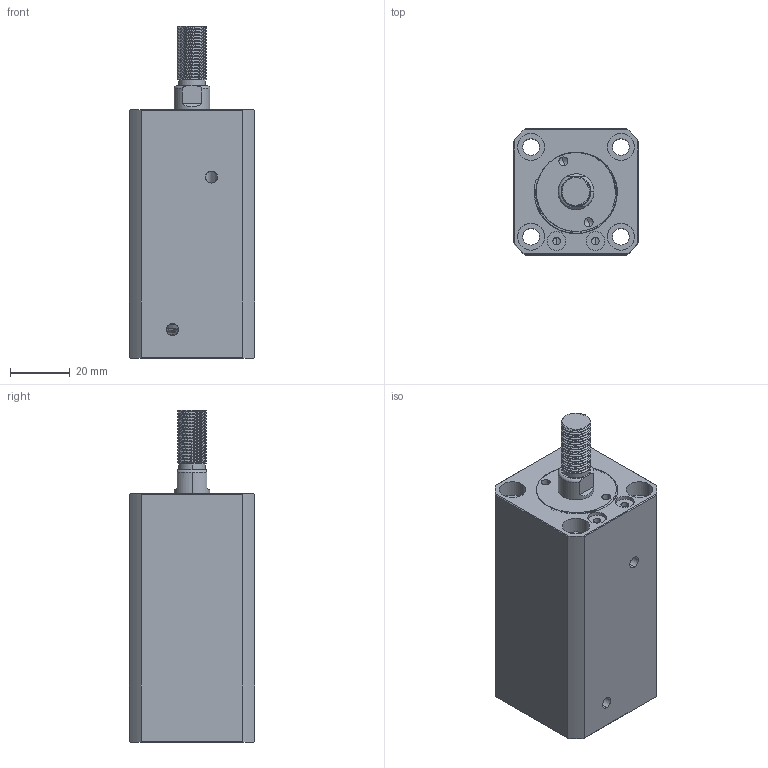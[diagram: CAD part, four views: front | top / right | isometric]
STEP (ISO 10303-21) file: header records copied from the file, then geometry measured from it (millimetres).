
FILE_DESCRIPTION (( 'STEP AP214' ), '1' );
FILE_NAME ('chtb-sdma20x40w_asm.STEP', '2018-05-18T04:17:28', ( 'Windows' ), ( 'Microsoft' ), 'SwSTEP 2.0', 'SolidWorks 2015', '' );
FILE_SCHEMA (( 'AUTOMOTIVE_DESIGN' ));
Length unit declared in the file: millimetre
Products named in the file (4): QG_3; CHTB-SDMA20X40WHSG; CHTB-SDMA20X40NBT; chtb-sdma20x40w_asm
Assembly tree (3 placements, depth 2):
  chtb-sdma20x40w_asm
    CHTB-SDMA20X40NBT
    CHTB-SDMA20X40WHSG
    QG_3
Bounding box: 42 x 42 x 111 mm (x, y, z)
Volume: 126159.7 mm3; surface area: 38659.8 mm2
Topology: 3 solids, 3 shells, 247 faces, 671 edges, 446 vertices
Faces by surface type: cylinder 144, plane 48, torus 25, bspline 23, cone 7
Entity records: 14895 total; most frequent: CARTESIAN_POINT 9018, ORIENTED_EDGE 1334, DIRECTION 1075, EDGE_CURVE 667, VERTEX_POINT 446, AXIS2_PLACEMENT_3D 441, EDGE_LOOP 285, ADVANCED_FACE 247
